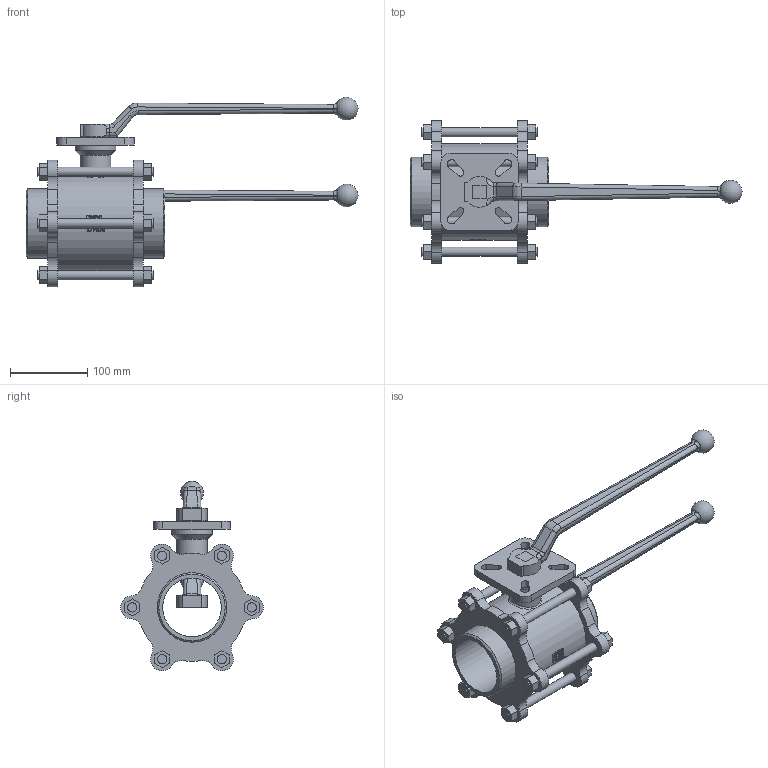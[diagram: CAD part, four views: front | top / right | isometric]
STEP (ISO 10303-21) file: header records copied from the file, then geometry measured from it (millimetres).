
FILE_DESCRIPTION( ( 'Unknown' ), '1' );
FILE_NAME( 'W:/ECCUA/ROOTSI BPS 3D vidinad/Kuulkraanid/Roostevaba kuulkraanid/Ball valve BPS 2421/Ball valve with hand lever BPS/STEP format/BPS 2421080 ball valve DN80.stp', 'Unknown', ( 'Unknown' ), ( 'Unknown' ), 'PSStep 10.1', 'Unknown', ' ' );
FILE_SCHEMA( ( 'AUTOMOTIVE_DESIGN { 1 0 10303 214 1 1 1 1 }' ) );
Length unit declared in the file: millimetre
Products named in the file (3): Assem1; Hand lever for ball valve DN65-100 BPS 2420-21; BPS 2421080 ball valve DN80
Bounding box: 430 x 184.73 x 245.38 mm (x, y, z)
Volume: 3219938.6 mm3; surface area: 475768.9 mm2
Topology: 4 solids, 4 shells, 752 faces, 1896 edges, 1254 vertices
Faces by surface type: plane 374, cylinder 256, bspline 102, torus 12, cone 6, sphere 2
Full cylindrical faces by diameter (mm): 12 x36, 40 x2, 53 x2, 76 x2, 90 x4, 125 x2
Entity records: 20368 total; most frequent: CARTESIAN_POINT 9117, ORIENTED_EDGE 1760, DIRECTION 1459, EDGE_CURVE 880, VERTEX_POINT 603, AXIS2_PLACEMENT_3D 547, EDGE_LOOP 489, FACE_OUTER_BOUND 408
